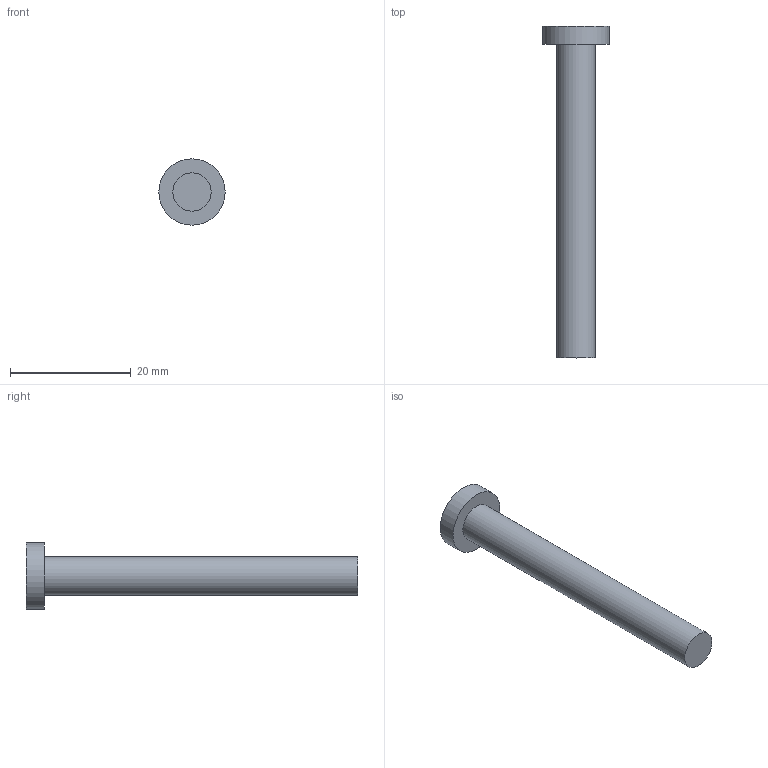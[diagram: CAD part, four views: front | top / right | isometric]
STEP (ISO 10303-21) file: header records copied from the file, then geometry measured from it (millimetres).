
FILE_DESCRIPTION(('Open CASCADE Model'),'2;1');
FILE_NAME('Open CASCADE Shape Model','2026-10-16T00:13:15',('Author'),( 'Open CASCADE'),'Open CASCADE STEP processor 7.9','Open CASCADE 7.9' ,'Unknown');
FILE_SCHEMA(('AUTOMOTIVE_DESIGN { 1 0 10303 214 1 1 1 1 }'));
Length unit declared in the file: millimetre
Products named in the file (1): Open CASCADE STEP translator 7.9 1
Bounding box: 11 x 55 x 11 mm (x, y, z)
Volume: 1931.9 mm3; surface area: 1331.1 mm2
Topology: 1 solids, 1 shells, 5 faces, 6 edges, 4 vertices
Faces by surface type: plane 3, cylinder 2
Full cylindrical faces by diameter (mm): 6.35 x1, 11 x1
Entity records: 192 total; most frequent: DIRECTION 34, CARTESIAN_POINT 28, ORIENTED_EDGE 12, PCURVE 12, DEFINITIONAL_REPRESENTATION 12, AXIS2_PLACEMENT_3D 10, LINE 10, VECTOR 10
